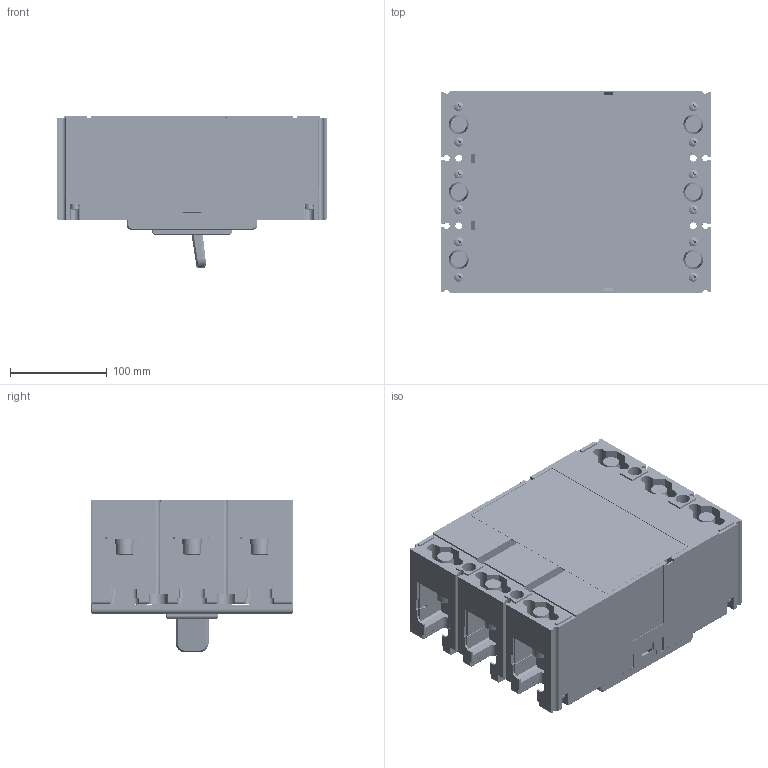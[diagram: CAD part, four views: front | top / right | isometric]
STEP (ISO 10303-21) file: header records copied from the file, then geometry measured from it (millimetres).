
FILE_DESCRIPTION((''),'2;1');
FILE_NAME('2253065800_ASM_ASM','2025-04-28T',('Administrator'),(''),'PRO/ENGINEER BY PARAMETRIC TECHNOLOGY CORPORATION, 2015440','PRO/ENGINEER BY PARAMETRIC TECHNOLOGY CORPORATION, 2015440','');
FILE_SCHEMA(('CONFIG_CONTROL_DESIGN'));
Products named in the file (42): JIZUO_5024040100_1; GB_T809-M5X16_1; 5024040100_ASM_1_ASM; 89400070R0_1; 8551039600_1; 5551090800_ASM_1_ASM; 5551088900_ASM_1_ASM; 8585075200_1; 5551101900_ASM_1_ASM; 5551102000_ASM_1_ASM; 5551149700_ASM_1_ASM; 7030100029_GB_T9074_4-M5X12_R_1; 7030100013_GB_T9074_4_M4X18_R_1; 7030100027_GB_T9074_4-M5X50_R_1; 7030100026_GB_T9074_4-M5X16_R_1; 5295020800_ASM_1_ASM; 8742116200_1; 8750038200_1; 8253076300_1; 5253028700_ASM_1_ASM; GZ_5315075400_1; GB_T809-M3X8_1; 5315075400_ASM_1_ASM; 8253076400_1; 8282201200_AF0_1; 5315076900_ASM_1_ASM; GB_T823-M5X35_1; 7090300501K_GB_T93_5_1; GB_T97_4_5_1; 5850007400_ASM_1_ASM; 8742116700_1; 8315095500_1; GB_T70_1-M12X35_1; GB_T9074_26-12_1; GB_T97_4_12_1; 5850010000_ASM_1_ASM; 7010100305R01_GB_T823_M3X10_1; 7090300201_GB_T93_3_1; GB_T97_4_3_1; 5850007700_ASM_1_ASM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
Assembly tree (108 placements, depth 7):
  2253065800_ASM_ASM
    2253065800_ASM_1_ASM
      5295020800_ASM_1_ASM
        5024040100_ASM_1_ASM
          JIZUO_5024040100_1
          GB_T809-M5X16_1  x10
        89400070R0_1  x6
        5551088900_ASM_1_ASM  x3
          5551090800_ASM_1_ASM
            8551039600_1
        5551149700_ASM_1_ASM
          5551102000_ASM_1_ASM  x3
            5551101900_ASM_1_ASM
              8585075200_1
        7030100029_GB_T9074_4-M5X12_R_1  x9
        7030100013_GB_T9074_4_M4X18_R_1  x6
        7030100027_GB_T9074_4-M5X50_R_1  x4
        7030100026_GB_T9074_4-M5X16_R_1  x6
      8742116200_1  x3
      8750038200_1
      5253028700_ASM_1_ASM
        8253076300_1
      5315076900_ASM_1_ASM
        5315075400_ASM_1_ASM
          GZ_5315075400_1
          GB_T809-M3X8_1  x7
        8253076400_1
        8282201200_AF0_1
      5850007400_ASM_1_ASM  x10
        GB_T823-M5X35_1
        7090300501K_GB_T93_5_1
        GB_T97_4_5_1
      8742116700_1
      8315095500_1
      5850010000_ASM_1_ASM  x6
        GB_T70_1-M12X35_1
        GB_T9074_26-12_1
        GB_T97_4_12_1
      5850007700_ASM_1_ASM  x7
        7010100305R01_GB_T823_M3X10_1
        7090300201_GB_T93_3_1
        GB_T97_4_3_1
Bounding box: 280 x 210 x 158.34 mm (x, y, z)
Volume: 2529305.9 mm3; surface area: 1021074.3 mm2
Topology: 134 solids, 218 shells, 8770 faces, 23419 edges, 15210 vertices
Faces by surface type: plane 5517, cylinder 2155, extrusion 304, cone 270, torus 197, bspline 180, sphere 147
Entity records: 232879 total; most frequent: CARTESIAN_POINT 62806, ORIENTED_EDGE 36306, DIRECTION 33536, EDGE_CURVE 18185, VECTOR 13702, LINE 13398, VERTEX_POINT 11898, AXIS2_PLACEMENT_3D 9917
